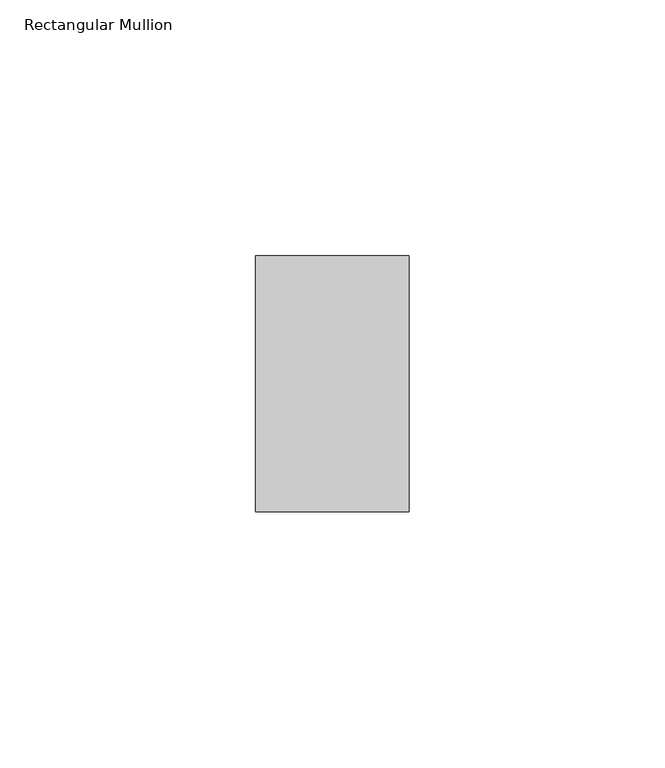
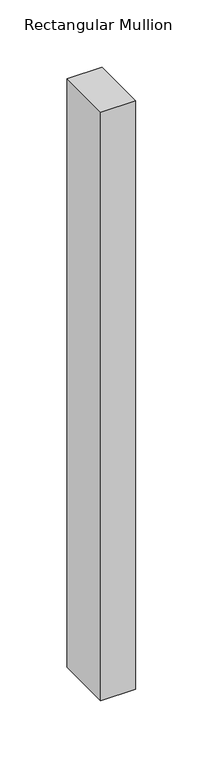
"""IFC4 building model written with IfcOpenShell, lengths in millimetres: member geometry, Rectangular Mullion : ARQ_TV_MULL_50x30mm."""

from ifc_helpers import new_model, si_unit, frame, origin, place, context, project, spatial, polyline, outline, extrude, source, transform, mapped, element, save


def rectangular_mullion_bbf09746(model_context):
    return source(origin(), model_context, "Body", "SweptSolid", [
        extrude(outline(polyline([(15.0, 25.0), (15.0, -25.0), (-15.0, -25.0), (-15.0, 25.0), (15.0, 25.0)])), frame((0.0, 0.0, -533.3333333), z_axis=(0.0, 0.0, 1.0), x_axis=(1.0, 0.0, 0.0)), (0.0, 0.0, 1.0), 533.3333333),
    ])


if __name__ == "__main__":
    model = new_model("IFC4")
    model_context = context("Model", 3, world=origin())
    ifc_project = project(units=[si_unit("LENGTHUNIT", "METRE", prefix="MILLI")], contexts=[model_context])
    site = spatial("IfcSite", under=ifc_project)
    building = spatial("IfcBuilding", under=site)
    placement = place(None, origin())
    rectangular_mullion_shape = rectangular_mullion_bbf09746(model_context)
    element("IfcMember", 1, ObjectType="Rectangular Mullion : ARQ_TV_MULL_50x30mm", at=placement, inside=building, context=model_context, shape_type="MappedRepresentation", body=[
        mapped(rectangular_mullion_shape, transform((0.0, 0.0, 0.0), x_axis=(1.0, 0.0, 0.0), y_axis=(0.0, 1.0, 0.0), z_axis=(0.0, 0.0, 1.0))),
    ])
    save(model, "model.ifc")
